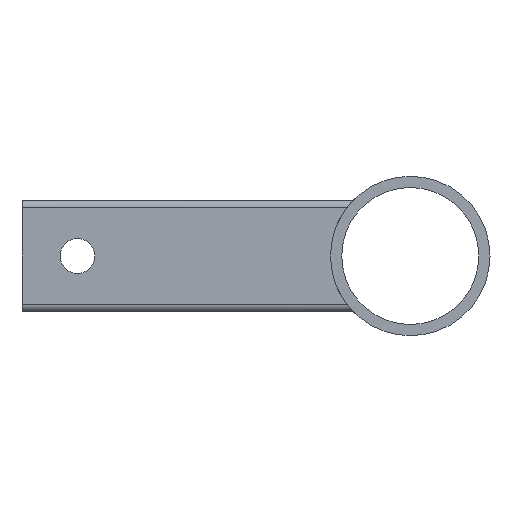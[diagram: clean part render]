
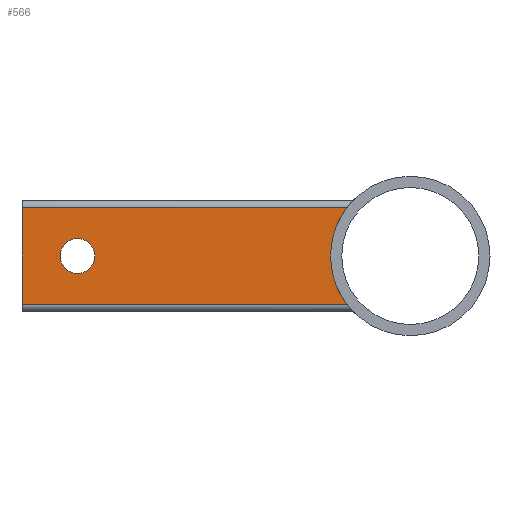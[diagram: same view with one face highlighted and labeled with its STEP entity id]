
A CAD part, front view. The second image highlights one B-rep face of the part: STEP entity #566.
In plain terms, the highlighted planar face has unit normal (0, -1, 0).
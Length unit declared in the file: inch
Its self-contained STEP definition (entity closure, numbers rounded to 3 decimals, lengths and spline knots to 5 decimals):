
#15=FACE_BOUND('',#119,.T.);
#34=CIRCLE('',#623,1.4375);
#37=CIRCLE('',#626,1.4375);
#39=CIRCLE('',#630,0.3125);
#65=PLANE('',#634);
#89=FACE_OUTER_BOUND('',#118,.T.);
#118=EDGE_LOOP('',(#454,#455,#456,#457,#458));
#119=EDGE_LOOP('',(#459));
#149=LINE('',#893,#187);
#150=LINE('',#896,#188);
#157=LINE('',#912,#195);
#187=VECTOR('',#692,0.3937);
#188=VECTOR('',#695,0.3937);
#195=VECTOR('',#706,0.3937);
#230=VERTEX_POINT('',#880);
#231=VERTEX_POINT('',#882);
#232=VERTEX_POINT('',#895);
#239=VERTEX_POINT('',#911);
#253=VERTEX_POINT('',#958);
#257=VERTEX_POINT('',#973);
#291=EDGE_CURVE('',#231,#230,#149,.T.);
#292=EDGE_CURVE('',#232,#230,#150,.T.);
#300=EDGE_CURVE('',#232,#239,#157,.T.);
#320=EDGE_CURVE('',#253,#231,#34,.T.);
#324=EDGE_CURVE('',#239,#253,#37,.T.);
#328=EDGE_CURVE('',#257,#257,#39,.T.);
#454=ORIENTED_EDGE('',*,*,#291,.F.);
#455=ORIENTED_EDGE('',*,*,#320,.F.);
#456=ORIENTED_EDGE('',*,*,#324,.F.);
#457=ORIENTED_EDGE('',*,*,#300,.F.);
#458=ORIENTED_EDGE('',*,*,#292,.T.);
#459=ORIENTED_EDGE('',*,*,#328,.T.);
#566=ADVANCED_FACE('',(#89,#15),#65,.F.);
#623=AXIS2_PLACEMENT_3D('',#960,#743,#744);
#626=AXIS2_PLACEMENT_3D('',#966,#750,#751);
#630=AXIS2_PLACEMENT_3D('',#974,#760,#761);
#634=AXIS2_PLACEMENT_3D('',#981,#771,#772);
#692=DIRECTION('',(-1.,0.,0.));
#695=DIRECTION('',(0.,0.,-1.));
#706=DIRECTION('',(1.,0.,0.));
#743=DIRECTION('center_axis',(0.,-1.,0.));
#744=DIRECTION('ref_axis',(1.,0.,0.));
#750=DIRECTION('center_axis',(0.,-1.,0.));
#751=DIRECTION('ref_axis',(1.,0.,0.));
#760=DIRECTION('center_axis',(0.,1.,0.));
#761=DIRECTION('ref_axis',(-1.,0.,0.));
#771=DIRECTION('center_axis',(0.,1.,0.));
#772=DIRECTION('ref_axis',(0.,0.,1.));
#880=CARTESIAN_POINT('',(-7.,16.,-0.87));
#882=CARTESIAN_POINT('',(-1.14434,16.,-0.87));
#893=CARTESIAN_POINT('',(-1.75,16.,-0.87));
#895=CARTESIAN_POINT('',(-7.,16.,0.87));
#896=CARTESIAN_POINT('',(-7.,16.,-0.8));
#911=CARTESIAN_POINT('',(-1.14434,16.,0.87));
#912=CARTESIAN_POINT('',(-5.25,16.,0.87));
#958=CARTESIAN_POINT('',(-1.4375,16.,0.));
#960=CARTESIAN_POINT('Origin',(0.,16.,0.));
#966=CARTESIAN_POINT('Origin',(0.,16.,0.));
#973=CARTESIAN_POINT('',(-5.6875,16.,0.));
#974=CARTESIAN_POINT('Origin',(-6.,16.,0.));
#981=CARTESIAN_POINT('Origin',(-3.5,16.,-0.9));
